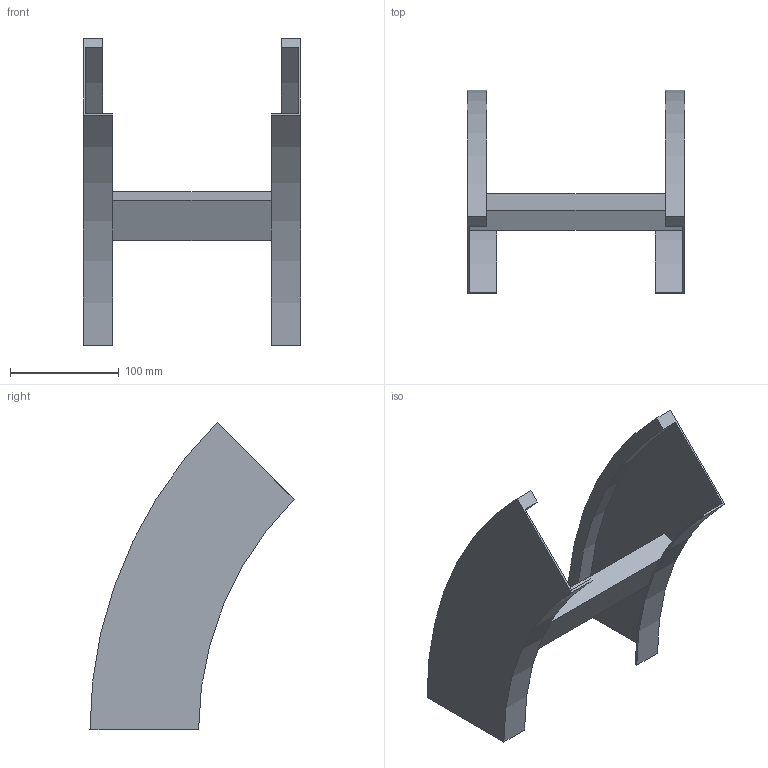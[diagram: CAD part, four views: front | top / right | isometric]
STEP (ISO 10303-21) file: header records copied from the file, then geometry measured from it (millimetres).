
FILE_DESCRIPTION (( 'STEP AP214' ), '1' );
FILE_NAME ('B2_34B3D200.step', '2025-02-21T14:52:01', ( '' ), ( '' ), 'SwSTEP 2.0', 'SolidWorks 2023', '' );
FILE_SCHEMA (( 'AUTOMOTIVE_DESIGN' ));
Length unit declared in the file: millimetre
Products named in the file (3): B2_LONGH.DISCESA_45°_H100_R300; TRAVERSINO_200; B2_34B3D200
Assembly tree (3 placements, depth 2):
  B2_34B3D200
    B2_LONGH.DISCESA_45°_H100_R300  x2
    TRAVERSINO_200
Bounding box: 200 x 187.87 x 282.84 mm (x, y, z)
Volume: 411183.8 mm3; surface area: 182703.9 mm2
Topology: 3 solids, 3 shells, 26 faces, 60 edges, 40 vertices
Faces by surface type: plane 18, cylinder 8
Entity records: 544 total; most frequent: DIRECTION 88, CARTESIAN_POINT 82, ORIENTED_EDGE 72, EDGE_CURVE 36, AXIS2_PLACEMENT_3D 30, LINE 28, VECTOR 28, VERTEX_POINT 24
